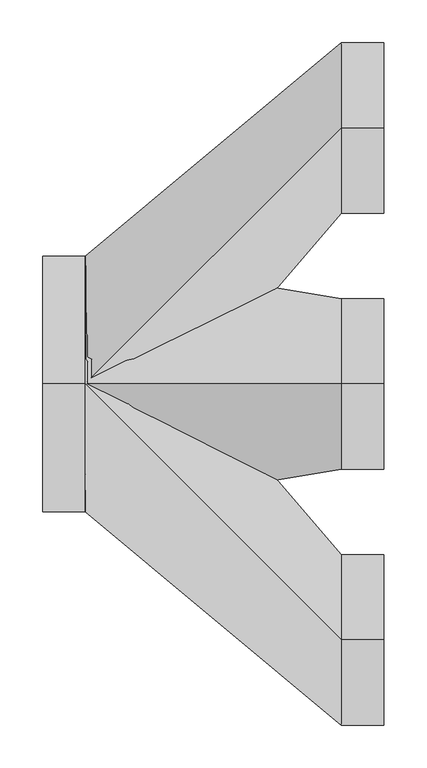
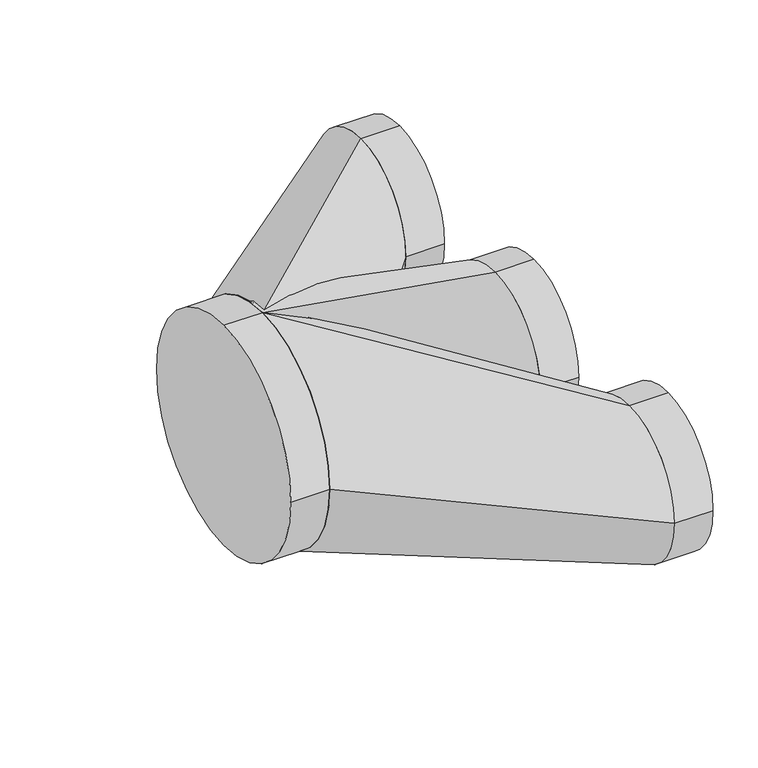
"""IFC4 building model written with IfcOpenShell, lengths in millimetres: duct fitting geometry, Prihoda Circular Pants 3 Outlets : Pants Circular 3 Outlets."""

from ifc_helpers import new_model, si_unit, point, frame, frame_2d, origin, origin_2d, place, context, project, spatial, polyline, circle_curve, trimmed, segment, composite_curve, outline, extrude, source, transform, mapped, element, save
from ifc_brep_helpers import plane_surface, revolved_surface, spline_surface, advanced_brep


def duct_fitting_3c55f1c0(model_context):
    return source(origin(), model_context, "Body", "SolidModel", [
        advanced_brep(
        [(300.0, -300.0, 100.0), (300.0, -400.0, 0.0), (300.0, -300.0, -100.0), (300.0, -200.0, 0.0), (0.0, 0.0, 150.0), (0.0, 150.0, 0.0), (0.0, 0.0, -150.0), (0.0, -150.0, 0.0)],
        [
            (0, 1, circle_curve(frame((300.0, -300.0, 0.0), z_axis=(1.0, 0.0, 0.0), x_axis=(0.0, 1.0, 0.0)), 100.0)),
            (1, 2, circle_curve(frame((300.0, -300.0, 0.0), z_axis=(1.0, 0.0, 0.0), x_axis=(0.0, 1.0, 0.0)), 100.0)),
            (2, 3, circle_curve(frame((300.0, -300.0, 0.0), z_axis=(1.0, 0.0, 0.0), x_axis=(0.0, 1.0, 0.0)), 100.0)),
            (3, 0, circle_curve(frame((300.0, -300.0, 0.0), z_axis=(1.0, 0.0, 0.0), x_axis=(0.0, 1.0, 0.0)), 100.0)),
            (4, 5, circle_curve(frame((0.0, 0.0, 0.0), z_axis=(-1.0, 0.0, 0.0), x_axis=(0.0, 1.0, 0.0)), 150.0)),
            (5, 6, circle_curve(frame((0.0, 0.0, 0.0), z_axis=(-1.0, 0.0, 0.0), x_axis=(0.0, 1.0, 0.0)), 150.0)),
            (6, 7, circle_curve(frame((0.0, 0.0, 0.0), z_axis=(-1.0, 0.0, 0.0), x_axis=(0.0, 1.0, 0.0)), 150.0)),
            (7, 4, circle_curve(frame((0.0, 0.0, 0.0), z_axis=(-1.0, 0.0, 0.0), x_axis=(0.0, 1.0, 0.0)), 150.0)),
            (7, 1),
            (0, 4),
            (6, 2),
            (5, 3),
        ],
        [
            plane_surface(frame((300.0, -300.0, 0.0), z_axis=(1.0, 0.0, 0.0), x_axis=(0.0, -1.0, 0.0))),
            plane_surface(frame((0.0, 0.0, 0.0), z_axis=(-1.0, 0.0, 0.0), x_axis=(0.0, -1.0, 0.0))),
            spline_surface(2, 1, [[(0.0, 0.0, 150.0), (300.0, -300.0, 100.0)], [(0.0, -150.0, 150.0), (300.0, -400.0, 100.0)], [(0.0, -150.0, 0.0), (300.0, -400.0, 0.0)]], [3, 3], [2, 2], [0.0, 1.0], [0.0, 1.0], weights=[[1.0, 1.0], [0.7071067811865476, 0.7071067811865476], [1.0, 1.0]]),
            spline_surface(2, 1, [[(0.0, -150.0, 0.0), (300.0, -400.0, 0.0)], [(0.0, -150.0, -150.0), (300.0, -400.0, -100.0)], [(0.0, 0.0, -150.0), (300.0, -300.0, -100.0)]], [3, 3], [2, 2], [0.0, 1.0], [0.0, 1.0], weights=[[1.0, 1.0], [0.7071067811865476, 0.7071067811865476], [1.0, 1.0]]),
            spline_surface(2, 1, [[(0.0, 0.0, -150.0), (300.0, -300.0, -100.0)], [(0.0, 150.0, -150.0), (300.0, -200.0, -100.0)], [(0.0, 150.0, 0.0), (300.0, -200.0, 0.0)]], [3, 3], [2, 2], [0.0, 1.0], [0.0, 1.0], weights=[[1.0, 1.0], [0.7071067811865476, 0.7071067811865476], [1.0, 1.0]]),
            spline_surface(2, 1, [[(0.0, 150.0, 0.0), (300.0, -200.0, 0.0)], [(0.0, 150.0, 150.0), (300.0, -200.0, 100.0)], [(0.0, 0.0, 150.0), (300.0, -300.0, 100.0)]], [3, 3], [2, 2], [0.0, 1.0], [0.0, 1.0], weights=[[1.0, 1.0], [0.7071067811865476, 0.7071067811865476], [1.0, 1.0]]),
        ],
        [
            (0, [[1, 2, 3, 4]]),
            (1, [[5, 6, 7, 8]]),
            (2, [[-8, 9, -1, 10]]),
            (3, [[-7, 11, -2, -9]]),
            (4, [[-6, 12, -3, -11]]),
            (5, [[-5, -10, -4, -12]]),
        ],
    ),
        advanced_brep(
        [(300.0, 0.0, 100.0), (300.0, -100.0, 0.0), (300.0, 0.0, -100.0), (300.0, 100.0, 0.0), (0.0, 0.0, 150.0), (0.0, 150.0, 0.0), (0.0, 0.0, -150.0), (0.0, -150.0, 0.0)],
        [
            (0, 1, circle_curve(frame((300.0, 0.0, 0.0), z_axis=(1.0, 0.0, 0.0), x_axis=(0.0, 0.0, 1.0)), 100.0)),
            (1, 2, circle_curve(frame((300.0, 0.0, 0.0), z_axis=(1.0, 0.0, 0.0), x_axis=(0.0, -1.0, 0.0)), 100.0)),
            (2, 3, circle_curve(frame((300.0, 0.0, 0.0), z_axis=(1.0, 0.0, 0.0), x_axis=(0.0, 0.0, -1.0)), 100.0)),
            (3, 0, circle_curve(frame((300.0, 0.0, 0.0), z_axis=(1.0, 0.0, 0.0), x_axis=(0.0, 1.0, 0.0)), 100.0)),
            (4, 5, circle_curve(frame((0.0, 0.0, 0.0), z_axis=(-1.0, 0.0, 0.0), x_axis=(0.0, 1.0, 0.0)), 150.0)),
            (5, 6, circle_curve(frame((0.0, 0.0, 0.0), z_axis=(-1.0, 0.0, 0.0), x_axis=(0.0, 0.0, -1.0)), 150.0)),
            (6, 7, circle_curve(frame((0.0, 0.0, 0.0), z_axis=(-1.0, 0.0, 0.0), x_axis=(0.0, -1.0, 0.0)), 150.0)),
            (7, 4, circle_curve(frame((0.0, 0.0, 0.0), z_axis=(-1.0, 0.0, 0.0), x_axis=(0.0, 0.0, 1.0)), 150.0)),
            (7, 1),
            (0, 4),
            (6, 2),
            (5, 3),
        ],
        [
            plane_surface(frame((300.0, 0.0, 0.0), z_axis=(1.0, 0.0, 0.0), x_axis=(0.0, -1.0, 0.0))),
            plane_surface(frame((0.0, 0.0, 0.0), z_axis=(-1.0, 0.0, 0.0), x_axis=(0.0, -1.0, 0.0))),
            revolved_surface(polyline([(300.0, 0.0, 100.0), (0.0, 0.0, 150.0)]), (900.0, 0.0, 0.0), (-1.0, 0.0, 0.0)),
            revolved_surface(polyline([(300.0, -100.0, 0.0), (0.0, -150.0, 0.0)]), (900.0, 0.0, 0.0), (-1.0, 0.0, 0.0)),
            revolved_surface(polyline([(300.0, 0.0, -100.0), (0.0, 0.0, -150.0)]), (900.0, 0.0, 0.0), (-1.0, 0.0, 0.0)),
            revolved_surface(polyline([(300.0, 100.0, 0.0), (0.0, 150.0, 0.0)]), (900.0, 0.0, 0.0), (-1.0, 0.0, 0.0)),
        ],
        [
            (0, [[1, 2, 3, 4]]),
            (1, [[5, 6, 7, 8]]),
            (2, [[-8, 9, -1, 10]]),
            (3, [[-7, 11, -2, -9]]),
            (4, [[-6, 12, -3, -11]]),
            (5, [[-5, -10, -4, -12]]),
        ],
    ),
        advanced_brep(
        [(300.0, 300.0, 100.0), (300.0, 200.0, 0.0), (300.0, 300.0, -100.0), (300.0, 400.0, 0.0), (0.0, 0.0, 150.0), (0.0, 150.0, 0.0), (0.0, 0.0, -150.0), (0.0, -150.0, 0.0)],
        [
            (0, 1, circle_curve(frame((300.0, 300.0, 0.0), z_axis=(1.0, 0.0, 0.0), x_axis=(0.0, 1.0, 0.0)), 100.0)),
            (1, 2, circle_curve(frame((300.0, 300.0, 0.0), z_axis=(1.0, 0.0, 0.0), x_axis=(0.0, 1.0, 0.0)), 100.0)),
            (2, 3, circle_curve(frame((300.0, 300.0, 0.0), z_axis=(1.0, 0.0, 0.0), x_axis=(0.0, 1.0, 0.0)), 100.0)),
            (3, 0, circle_curve(frame((300.0, 300.0, 0.0), z_axis=(1.0, 0.0, 0.0), x_axis=(0.0, 1.0, 0.0)), 100.0)),
            (4, 5, circle_curve(frame((0.0, 0.0, 0.0), z_axis=(-1.0, 0.0, 0.0), x_axis=(0.0, 1.0, 0.0)), 150.0)),
            (5, 6, circle_curve(frame((0.0, 0.0, 0.0), z_axis=(-1.0, 0.0, 0.0), x_axis=(0.0, 1.0, 0.0)), 150.0)),
            (6, 7, circle_curve(frame((0.0, 0.0, 0.0), z_axis=(-1.0, 0.0, 0.0), x_axis=(0.0, 1.0, 0.0)), 150.0)),
            (7, 4, circle_curve(frame((0.0, 0.0, 0.0), z_axis=(-1.0, 0.0, 0.0), x_axis=(0.0, 1.0, 0.0)), 150.0)),
            (7, 1),
            (0, 4),
            (6, 2),
            (5, 3),
        ],
        [
            plane_surface(frame((300.0, 300.0, 0.0), z_axis=(1.0, 0.0, 0.0), x_axis=(0.0, -1.0, 0.0))),
            plane_surface(frame((0.0, 0.0, 0.0), z_axis=(-1.0, 0.0, 0.0), x_axis=(0.0, -1.0, 0.0))),
            spline_surface(2, 1, [[(0.0, 0.0, 150.0), (300.0, 300.0, 100.0)], [(0.0, -150.0, 150.0), (300.0, 200.0, 100.0)], [(0.0, -150.0, 0.0), (300.0, 200.0, 0.0)]], [3, 3], [2, 2], [0.0, 1.0], [0.0, 1.0], weights=[[1.0, 1.0], [0.7071067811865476, 0.7071067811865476], [1.0, 1.0]]),
            spline_surface(2, 1, [[(0.0, -150.0, 0.0), (300.0, 200.0, 0.0)], [(0.0, -150.0, -150.0), (300.0, 200.0, -100.0)], [(0.0, 0.0, -150.0), (300.0, 300.0, -100.0)]], [3, 3], [2, 2], [0.0, 1.0], [0.0, 1.0], weights=[[1.0, 1.0], [0.7071067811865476, 0.7071067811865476], [1.0, 1.0]]),
            spline_surface(2, 1, [[(0.0, 0.0, -150.0), (300.0, 300.0, -100.0)], [(0.0, 150.0, -150.0), (300.0, 400.0, -100.0)], [(0.0, 150.0, 0.0), (300.0, 400.0, 0.0)]], [3, 3], [2, 2], [0.0, 1.0], [0.0, 1.0], weights=[[1.0, 1.0], [0.7071067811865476, 0.7071067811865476], [1.0, 1.0]]),
            spline_surface(2, 1, [[(0.0, 150.0, 0.0), (300.0, 400.0, 0.0)], [(0.0, 150.0, 150.0), (300.0, 400.0, 100.0)], [(0.0, 0.0, 150.0), (300.0, 300.0, 100.0)]], [3, 3], [2, 2], [0.0, 1.0], [0.0, 1.0], weights=[[1.0, 1.0], [0.7071067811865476, 0.7071067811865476], [1.0, 1.0]]),
        ],
        [
            (0, [[1, 2, 3, 4]]),
            (1, [[5, 6, 7, 8]]),
            (2, [[-8, 9, -1, 10]]),
            (3, [[-7, 11, -2, -9]]),
            (4, [[-6, 12, -3, -11]]),
            (5, [[-5, -10, -4, -12]]),
        ],
    ),
        extrude(outline(composite_curve([segment(trimmed(circle_curve(frame_2d((-300.0, 0.0)), 100.0), [point((-300.0, 100.0))], [point((-200.0, 0.0))], False, "CARTESIAN"), True, "CONTINUOUS"), segment(trimmed(circle_curve(frame_2d((-300.0, 0.0)), 100.0), [point((-200.0, 0.0))], [point((-300.0, -100.0))], False, "CARTESIAN"), True, "CONTINUOUS"), segment(trimmed(circle_curve(frame_2d((-300.0, 0.0)), 100.0), [point((-300.0, -100.0))], [point((-400.0, 0.0))], False, "CARTESIAN"), True, "CONTINUOUS"), segment(trimmed(circle_curve(frame_2d((-300.0, 0.0)), 100.0), [point((-400.0, 0.0))], [point((-300.0, 100.0))], False, "CARTESIAN"), True, "CONTINUOUS")], self_intersect=False)), frame((300.0, 0.0, 0.0), z_axis=(1.0, 0.0, 0.0), x_axis=(0.0, 1.0, 0.0)), (0.0, 0.0, 1.0), 50.0),
        extrude(outline(composite_curve([segment(trimmed(circle_curve(origin_2d(), 100.0), [point((0.0, 100.0))], [point((100.0, 0.0))], False, "CARTESIAN"), True, "CONTINUOUS"), segment(trimmed(circle_curve(origin_2d(), 100.0), [point((100.0, 0.0))], [point((0.0, -100.0))], False, "CARTESIAN"), True, "CONTINUOUS"), segment(trimmed(circle_curve(origin_2d(), 100.0), [point((0.0, -100.0))], [point((-100.0, 0.0))], False, "CARTESIAN"), True, "CONTINUOUS"), segment(trimmed(circle_curve(origin_2d(), 100.0), [point((-100.0, 0.0))], [point((0.0, 100.0))], False, "CARTESIAN"), True, "CONTINUOUS")], self_intersect=False)), frame((300.0, 0.0, 0.0), z_axis=(1.0, 0.0, 0.0), x_axis=(0.0, 1.0, 0.0)), (0.0, 0.0, 1.0), 50.0),
        extrude(outline(composite_curve([segment(trimmed(circle_curve(frame_2d((300.0, 0.0)), 100.0), [point((300.0, 100.0))], [point((400.0, 0.0))], False, "CARTESIAN"), True, "CONTINUOUS"), segment(trimmed(circle_curve(frame_2d((300.0, 0.0)), 100.0), [point((400.0, 0.0))], [point((300.0, -100.0))], False, "CARTESIAN"), True, "CONTINUOUS"), segment(trimmed(circle_curve(frame_2d((300.0, 0.0)), 100.0), [point((300.0, -100.0))], [point((200.0, 0.0))], False, "CARTESIAN"), True, "CONTINUOUS"), segment(trimmed(circle_curve(frame_2d((300.0, 0.0)), 100.0), [point((200.0, 0.0))], [point((300.0, 100.0))], False, "CARTESIAN"), True, "CONTINUOUS")], self_intersect=False)), frame((300.0, 0.0, 0.0), z_axis=(1.0, 0.0, 0.0), x_axis=(0.0, 1.0, 0.0)), (0.0, 0.0, 1.0), 50.0),
        extrude(outline(composite_curve([segment(trimmed(circle_curve(origin_2d(), 150.0), [point((0.0, 150.0))], [point((150.0, 0.0))], False, "CARTESIAN"), True, "CONTINUOUS"), segment(trimmed(circle_curve(origin_2d(), 150.0), [point((150.0, 0.0))], [point((0.0, -150.0))], False, "CARTESIAN"), True, "CONTINUOUS"), segment(trimmed(circle_curve(origin_2d(), 150.0), [point((0.0, -150.0))], [point((-150.0, 0.0))], False, "CARTESIAN"), True, "CONTINUOUS"), segment(trimmed(circle_curve(origin_2d(), 150.0), [point((-150.0, 0.0))], [point((0.0, 150.0))], False, "CARTESIAN"), True, "CONTINUOUS")], self_intersect=False)), frame((-50.0, 0.0, 0.0), z_axis=(1.0, 0.0, 0.0), x_axis=(0.0, 1.0, 0.0)), (0.0, 0.0, 1.0), 50.0),
    ])


if __name__ == "__main__":
    model = new_model("IFC4")
    model_context = context("Model", 3, world=origin())
    ifc_project = project(units=[si_unit("LENGTHUNIT", "METRE", prefix="MILLI")], contexts=[model_context])
    site = spatial("IfcSite", under=ifc_project)
    building = spatial("IfcBuilding", under=site)
    placement = place(None, origin())
    duct_fitting_shape = duct_fitting_3c55f1c0(model_context)
    element("IfcDuctFitting", 1, ObjectType="Prihoda Circular Pants 3 Outlets : Pants Circular 3 Outlets", at=placement, inside=building, context=model_context, shape_type="MappedRepresentation", body=[
        mapped(duct_fitting_shape, transform((0.0, 0.0, 0.0), x_axis=(1.0, 0.0, 0.0), y_axis=(0.0, 1.0, 0.0), z_axis=(0.0, 0.0, 1.0))),
    ])
    save(model, "model.ifc")
